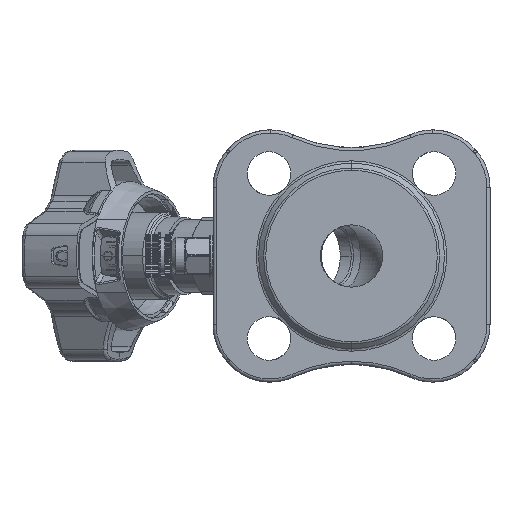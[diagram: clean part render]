
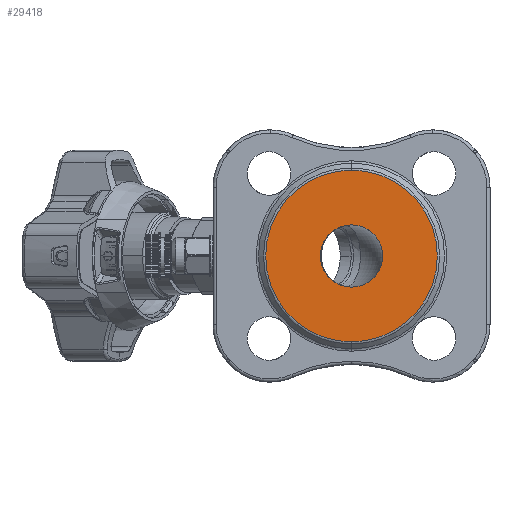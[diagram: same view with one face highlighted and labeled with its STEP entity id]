
A CAD part, left-side view. The second image highlights one B-rep face of the part: STEP entity #29418.
In plain terms, the highlighted planar face has unit normal (-1, 0, 0).
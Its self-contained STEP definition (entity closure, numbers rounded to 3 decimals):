
#642 = VERTEX_POINT ( 'NONE', #3246 ) ;
#2331 = DIRECTION ( 'NONE',  ( -1., 0., 0. ) ) ;
#3145 = CIRCLE ( 'NONE', #77512, 10. ) ;
#3246 = CARTESIAN_POINT ( 'NONE',  ( -75., 0., 27.586 ) ) ;
#12085 = DIRECTION ( 'NONE',  ( 0., 0., 1. ) ) ;
#14329 = DIRECTION ( 'NONE',  ( 0., 0., 1. ) ) ;
#16239 = EDGE_LOOP ( 'NONE', ( #46047, #37988 ) ) ;
#17656 = ORIENTED_EDGE ( 'NONE', *, *, #75200, .T. ) ;
#21277 = CARTESIAN_POINT ( 'NONE',  ( -75., 0., -10. ) ) ;
#23543 = AXIS2_PLACEMENT_3D ( 'NONE', #49826, #90452, #120963 ) ;
#25590 = VERTEX_POINT ( 'NONE', #21277 ) ;
#29418 = ADVANCED_FACE ( 'NONE', ( #91538, #37690 ), #81512, .T. ) ;
#30434 = EDGE_CURVE ( 'NONE', #60608, #25590, #86876, .T. ) ;
#30956 = CARTESIAN_POINT ( 'NONE',  ( -75., 0., 10. ) ) ;
#37690 = FACE_BOUND ( 'NONE', #16239, .T. ) ;
#37988 = ORIENTED_EDGE ( 'NONE', *, *, #93425, .F. ) ;
#43290 = DIRECTION ( 'NONE',  ( -1., 0., 0. ) ) ;
#46047 = ORIENTED_EDGE ( 'NONE', *, *, #30434, .F. ) ;
#49826 = CARTESIAN_POINT ( 'NONE',  ( -75., 0., 0. ) ) ;
#50930 = DIRECTION ( 'NONE',  ( -1., 0., 0. ) ) ;
#54197 = DIRECTION ( 'NONE',  ( 0., 0., 1. ) ) ;
#60608 = VERTEX_POINT ( 'NONE', #30956 ) ;
#62211 = CARTESIAN_POINT ( 'NONE',  ( -75., 0., 0. ) ) ;
#64582 = CARTESIAN_POINT ( 'NONE',  ( -75., 0., 0. ) ) ;
#68314 = EDGE_CURVE ( 'NONE', #126289, #642, #102123, .T. ) ;
#70541 = EDGE_LOOP ( 'NONE', ( #17656, #93334 ) ) ;
#75200 = EDGE_CURVE ( 'NONE', #642, #126289, #102433, .T. ) ;
#77512 = AXIS2_PLACEMENT_3D ( 'NONE', #64582, #43290, #12085 ) ;
#80873 = CARTESIAN_POINT ( 'NONE',  ( -75., 0., 0. ) ) ;
#81512 = PLANE ( 'NONE',  #89872 ) ;
#82824 = CARTESIAN_POINT ( 'NONE',  ( -75., -28., 0. ) ) ;
#86876 = CIRCLE ( 'NONE', #122967, 10. ) ;
#89872 = AXIS2_PLACEMENT_3D ( 'NONE', #82824, #2331, #54197 ) ;
#90452 = DIRECTION ( 'NONE',  ( -1., 0., 0. ) ) ;
#91538 = FACE_OUTER_BOUND ( 'NONE', #70541, .T. ) ;
#91558 = DIRECTION ( 'NONE',  ( 0., 0., 1. ) ) ;
#93334 = ORIENTED_EDGE ( 'NONE', *, *, #68314, .T. ) ;
#93425 = EDGE_CURVE ( 'NONE', #25590, #60608, #3145, .T. ) ;
#102123 = CIRCLE ( 'NONE', #23543, 27.586 ) ;
#102433 = CIRCLE ( 'NONE', #129998, 27.586 ) ;
#105446 = DIRECTION ( 'NONE',  ( -1., 0., 0. ) ) ;
#119246 = CARTESIAN_POINT ( 'NONE',  ( -75., 0., -27.586 ) ) ;
#120963 = DIRECTION ( 'NONE',  ( 0., 0., 1. ) ) ;
#122967 = AXIS2_PLACEMENT_3D ( 'NONE', #62211, #105446, #14329 ) ;
#126289 = VERTEX_POINT ( 'NONE', #119246 ) ;
#129998 = AXIS2_PLACEMENT_3D ( 'NONE', #80873, #50930, #91558 ) ;
